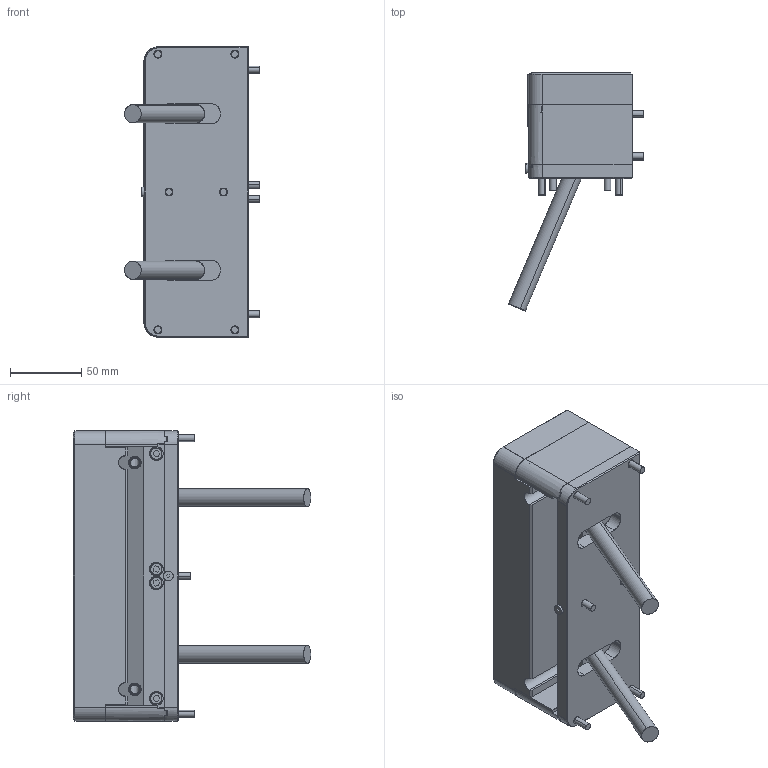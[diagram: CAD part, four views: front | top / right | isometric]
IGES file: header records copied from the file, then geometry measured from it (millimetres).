
Start section: SolidWorks IGES file using analytic representation for surfaces
Global section: file name: C:\temp\GO\Files\SL-55-80.igs; native system: SolidWorks 2023; preprocessor: SolidWorks 2023; author: andrew.sweeney; date: 250805.182318; units: inch
Bounding box: 94.29 x 166.23 x 203.2 mm (x, y, z)
Surface area: 187409.6 mm2 (no closed solid volume)
Topology: 0 solids, 0 shells, 814 faces, 12248 edges, 12218 vertices
Faces by surface type: bspline 453, revolution 361
